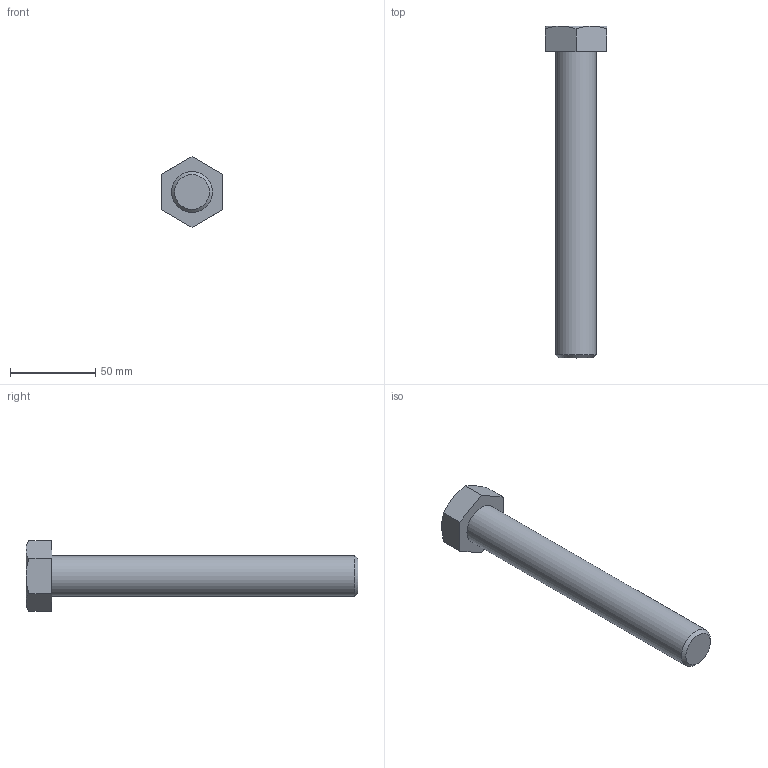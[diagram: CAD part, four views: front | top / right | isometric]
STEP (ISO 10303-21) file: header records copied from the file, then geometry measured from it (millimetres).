
FILE_DESCRIPTION(/* description */ (''),/* implementation_level */ '2;1');
FILE_NAME(/* name */ 'C:\Users\unitec\Documents\Inventor\各種小物\JIS\JIS B 1180 六角ボルト 等級C\hbc24\M24x180.stp',/* time_stamp */ '2015-02-13T14:54:25+09:00',/* author */ ('unitec'),/* organization */ (''),/* preprocessor_version */ 'ST-DEVELOPER v15.2',/* originating_system */ 'Autodesk Inventor 2014',/* authorisation */ '');
FILE_SCHEMA (('AUTOMOTIVE_DESIGN { 1 0 10303 214 3 1 1 }'));
Length unit declared in the file: millimetre
Products named in the file (1): M24x180
Bounding box: 36 x 195 x 41.57 mm (x, y, z)
Volume: 98093.9 mm3; surface area: 17548.8 mm2
Topology: 1 solids, 1 shells, 17 faces, 35 edges, 21 vertices
Faces by surface type: plane 9, cone 7, cylinder 1
Full cylindrical faces by diameter (mm): 24 x1
Entity records: 441 total; most frequent: CARTESIAN_POINT 96, ORIENTED_EDGE 66, DIRECTION 66, EDGE_CURVE 33, AXIS2_PLACEMENT_3D 27, VERTEX_POINT 21, EDGE_LOOP 20, ADVANCED_FACE 17
